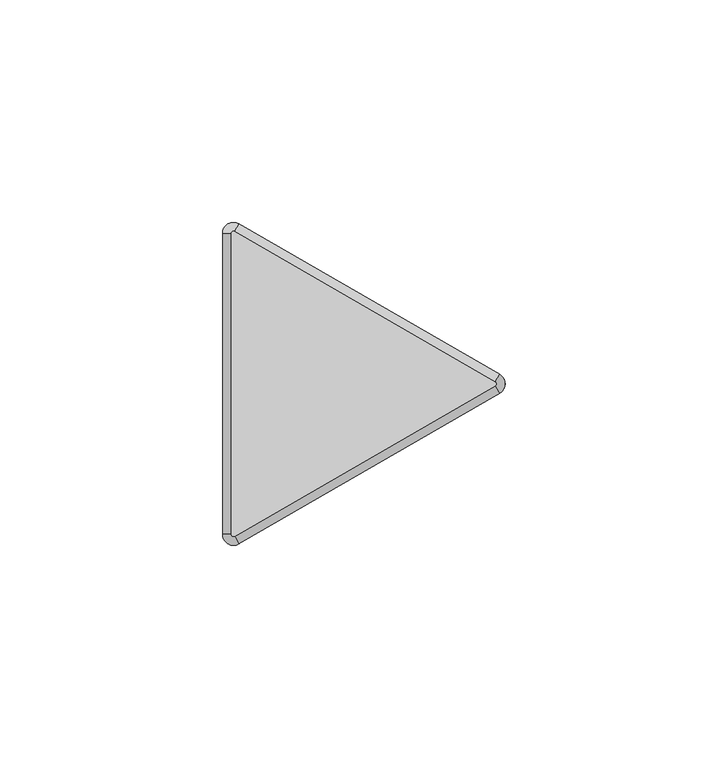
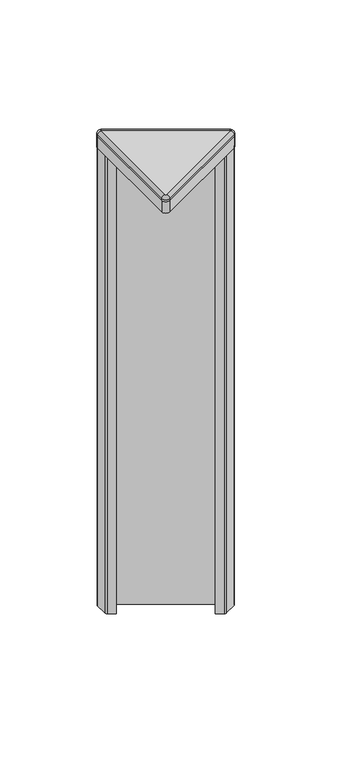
"""IFC4 building model written with IfcOpenShell, lengths in millimetres: furniture geometry, Steelcase - Answer Solution - Panel - 120deg Change-of-Height Trim - Thin : V Corner - 12H for 84H App."""

from ifc_helpers import new_model, si_unit, point, frame, frame_2d, origin, place, context, project, spatial, polyline, circle_curve, ellipse_curve, trimmed, segment, composite_curve, outline, extrude, source, transform, mapped, element, save
from ifc_brep_helpers import plane_surface, cylinder_surface, revolved_surface, advanced_brep


def furniture_b97a619a(model_context):
    return source(origin(), model_context, "Body", "SolidModel", [
        advanced_brep(
        [(-10.518645, -37.3335529, 2138.0628978), (-14.2052101, -35.2051135, 2138.0628978), (-14.2052101, -35.2051135, 2137.1164663), (-10.518645, -37.3335529, 2137.1164663), (-11.46175, -35.7000471, 2139.95), (-12.319, -35.2051135, 2139.95), (-11.46175, -35.7000471, 2137.1164663), (-12.319, -35.2051135, 2137.1164663), (48.0429908, -3.5229767, 2137.1164663), (48.0429908, -3.5229767, 2138.0628978), (47.0998858, -1.8894709, 2139.95), (47.0998858, -1.8894709, 2137.1164663), (48.0429908, 0.733902, 2138.0628978), (48.0429908, 0.733902, 2137.1164663), (47.0998858, -0.8996038, 2139.95), (47.0998858, -0.8996038, 2137.1164663), (-10.518645, 34.5444782, 2137.1164663), (-14.2052101, 32.4160388, 2137.1164663), (-11.46175, 32.9109723, 2137.1164663), (-12.319, 32.4160388, 2137.1164663), (-10.518645, 34.5444782, 2138.0628978), (-11.46175, 32.9109723, 2139.95), (-14.2052101, 32.4160388, 2138.0628978), (-12.319, 32.4160388, 2139.95)],
        [
            (0, 1, circle_curve(frame((-11.7475, -35.2051135, 2138.0628978), z_axis=(0.0, 0.0, -1.0), x_axis=(-1.0, 0.0, 0.0)), 2.4577101)),
            (1, 2),
            (2, 3, circle_curve(frame((-11.7475, -35.2051135, 2137.1164663), z_axis=(0.0, 0.0, 1.0), x_axis=(-1.0, 0.0, 0.0)), 2.4577101)),
            (3, 0),
            (4, 5, circle_curve(frame((-11.7475, -35.2051135, 2139.95), z_axis=(0.0, 0.0, -1.0), x_axis=(-1.0, 0.0, 0.0)), 0.5715)),
            (5, 1, circle_curve(frame((-12.3181076, -35.2051135, 2138.0628978), z_axis=(0.0, -1.0, 0.0), x_axis=(1.0, 0.0, 0.0)), 1.8871024)),
            (0, 4, circle_curve(frame((-11.4621962, -35.6992743, 2138.0628978), z_axis=(-0.8660254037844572, -0.49999999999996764, 0.0), x_axis=(-0.49999999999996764, 0.8660254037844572, 0.0)), 1.8871024)),
            (6, 7, circle_curve(frame((-11.7475, -35.2051135, 2137.1164663), z_axis=(0.0, 0.0, -1.0), x_axis=(-1.0, 0.0, 0.0)), 0.5715)),
            (7, 5),
            (4, 6),
            (3, 8),
            (8, 9),
            (9, 0),
            (9, 10, circle_curve(frame((47.0994396, -1.8886981, 2138.0628978), z_axis=(-0.8660254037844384, -0.5000000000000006, 0.0), x_axis=(-0.5000000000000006, 0.8660254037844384, 0.0)), 1.8871024)),
            (10, 4),
            (10, 11),
            (11, 6),
            (12, 9, circle_curve(frame((46.8141358, -1.3945374, 2138.0628978), z_axis=(0.0, 0.0, -1.0), x_axis=(0.4999999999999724, -0.8660254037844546, 0.0)), 2.4577101)),
            (8, 13, circle_curve(frame((46.8141358, -1.3945374, 2137.1164663), z_axis=(0.0, 0.0, 1.0), x_axis=(0.4999999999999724, -0.8660254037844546, 0.0)), 2.4577101)),
            (13, 12),
            (14, 10, circle_curve(frame((46.8141358, -1.3945374, 2139.95), z_axis=(0.0, 0.0, -1.0), x_axis=(0.4999999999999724, -0.8660254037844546, 0.0)), 0.5715)),
            (12, 14, circle_curve(frame((47.0994396, -0.9003766, 2138.0628978), z_axis=(0.8660254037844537, -0.49999999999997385, 0.0), x_axis=(-0.49999999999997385, -0.8660254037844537, 0.0)), 1.8871024)),
            (15, 11, circle_curve(frame((46.8141358, -1.3945374, 2137.1164663), z_axis=(0.0, 0.0, -1.0), x_axis=(0.4999999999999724, -0.8660254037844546, 0.0)), 0.5715)),
            (14, 15),
            (16, 13),
            (2, 17),
            (17, 16, circle_curve(frame((-11.7475, 32.4160388, 2137.1164663), z_axis=(0.0, 0.0, -1.0), x_axis=(0.500000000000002, 0.8660254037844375, 0.0)), 2.4577101)),
            (15, 18),
            (18, 19, circle_curve(frame((-11.7475, 32.4160388, 2137.1164663), z_axis=(0.0, 0.0, 1.0), x_axis=(0.500000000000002, 0.8660254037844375, 0.0)), 0.5715)),
            (19, 7),
            (16, 20),
            (20, 12),
            (20, 21, circle_curve(frame((-11.4621962, 32.9101995, 2138.0628978), z_axis=(0.8660254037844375, -0.5000000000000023, 0.0), x_axis=(-0.5000000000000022, -0.8660254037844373, 0.0)), 1.8871024)),
            (21, 14),
            (21, 18),
            (22, 20, circle_curve(frame((-11.7475, 32.4160388, 2138.0628978), z_axis=(0.0, 0.0, -1.0), x_axis=(0.500000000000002, 0.8660254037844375, 0.0)), 2.4577101)),
            (17, 22),
            (23, 21, circle_curve(frame((-11.7475, 32.4160388, 2139.95), z_axis=(0.0, 0.0, -1.0), x_axis=(0.500000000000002, 0.8660254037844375, 0.0)), 0.5715)),
            (22, 23, circle_curve(frame((-12.3181076, 32.4160388, 2138.0628978), z_axis=(0.0, 1.0, 0.0), x_axis=(1.0, 0.0, 0.0)), 1.8871024)),
            (23, 19),
            (1, 22),
            (5, 23),
        ],
        [
            cylinder_surface(frame((-11.7475, -35.2051135, 0.0), z_axis=(0.0, 0.0, 1.0), x_axis=(-1.0, 0.0, 0.0)), 2.4577101),
            revolved_surface(trimmed(ellipse_curve(frame((-12.3181076, -35.2051135, 2138.0628978), z_axis=(0.0, 1.0, 0.0), x_axis=(1.0, 0.0, 0.0)), 1.8871024, 1.8871024), [point((-14.2052101, -35.2051135, 2138.0628978))], [point((-12.319, -35.2051135, 2139.95))], True, "CARTESIAN"), (-11.7475, -35.2051135, 0.0), (0.0, 0.0, 1.0)),
            revolved_surface(polyline([(-12.319, -35.2051135, 2139.95), (-12.319, -35.2051135, 2137.1164663)]), (-11.7475, -35.2051135, 0.0), (0.0, 0.0, 1.0)),
            plane_surface(frame((-10.518645, -37.3335529, 2137.1164663), z_axis=(0.49999999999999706, -0.8660254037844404, 0.0), x_axis=(0.8660254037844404, 0.49999999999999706, 0.0))),
            cylinder_surface(frame((-11.4621962, -35.6992743, 2138.0628978), z_axis=(-0.8660254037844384, -0.5000000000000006, 0.0), x_axis=(-0.5000000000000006, 0.8660254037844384, 0.0)), 1.8871024),
            plane_surface(frame((-11.46175, -35.7000471, 2139.95), z_axis=(-0.500000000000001, 0.8660254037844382, 0.0), x_axis=(0.8660254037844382, 0.500000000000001, 0.0))),
            cylinder_surface(frame((46.8141358, -1.3945374, 0.0), z_axis=(0.0, 0.0, 1.0), x_axis=(0.4999999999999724, -0.8660254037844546, 0.0)), 2.4577101),
            revolved_surface(trimmed(ellipse_curve(frame((47.0994396, -1.8886981, 2138.0628978), z_axis=(-0.8660254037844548, -0.499999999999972, 0.0), x_axis=(-0.499999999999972, 0.8660254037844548, 0.0)), 1.8871024, 1.8871024), [point((48.0429908, -3.5229767, 2138.0628978))], [point((47.0998858, -1.8894709, 2139.95))], True, "CARTESIAN"), (46.8141358, -1.3945374, 0.0), (0.0, 0.0, 1.0)),
            revolved_surface(polyline([(47.09988579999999, -1.8894709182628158, 2139.95), (47.09988579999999, -1.8894709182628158, 2137.1164663)]), (46.8141358, -1.3945374, 0.0), (0.0, 0.0, 1.0)),
            plane_surface(frame((47.0998858, -0.8996038, 2137.1164663), z_axis=(0.0, 0.0, -1.0), x_axis=(-0.8660254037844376, 0.5000000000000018, 0.0))),
            plane_surface(frame((48.0429908, 0.733902, 2137.1164663), z_axis=(0.49999999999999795, 0.8660254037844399, 0.0), x_axis=(-0.8660254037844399, 0.49999999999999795, 0.0))),
            cylinder_surface(frame((47.0994396, -0.9003766, 2138.0628978), z_axis=(0.8660254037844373, -0.5000000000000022, 0.0), x_axis=(-0.5000000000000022, -0.8660254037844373, 0.0)), 1.8871024),
            plane_surface(frame((47.0998858, -0.8996038, 2139.95), z_axis=(-0.5000000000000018, -0.8660254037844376, 0.0), x_axis=(-0.8660254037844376, 0.5000000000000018, 0.0))),
            cylinder_surface(frame((-11.7475, 32.4160388, 0.0), z_axis=(0.0, 0.0, 1.0), x_axis=(0.500000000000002, 0.8660254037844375, 0.0)), 2.4577101),
            revolved_surface(trimmed(ellipse_curve(frame((-11.4621962, 32.9101995, 2138.0628978), z_axis=(0.866025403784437, -0.5000000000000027, 0.0), x_axis=(-0.5000000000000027, -0.866025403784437, 0.0)), 1.8871024, 1.8871024), [point((-10.518645, 34.5444782, 2138.0628978))], [point((-11.46175, 32.9109723, 2139.95))], True, "CARTESIAN"), (-11.7475, 32.4160388, 0.0), (0.0, 0.0, 1.0)),
            revolved_surface(polyline([(-11.461749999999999, 32.91097231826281, 2139.95), (-11.461749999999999, 32.91097231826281, 2137.1164663)]), (-11.7475, 32.4160388, 0.0), (0.0, 0.0, 1.0)),
            plane_surface(frame((-14.2052101, 32.4160388, 2137.1164663), z_axis=(-1.0, 0.0, 0.0), x_axis=(0.0, -1.0, 0.0))),
            cylinder_surface(frame((-12.3181076, 32.4160388, 2138.0628978), z_axis=(0.0, 1.0, 0.0), x_axis=(1.0, 0.0, 0.0)), 1.8871024),
            plane_surface(frame((-12.319, 32.4160388, 2139.95), z_axis=(1.0, 0.0, 0.0), x_axis=(0.0, -1.0, 0.0))),
        ],
        [
            (0, [[1, 2, 3, 4]]),
            (1, [[5, 6, -1, 7]]),
            (2, [[8, 9, -5, 10]]),
            (3, [[-4, 11, 12, 13]]),
            (4, [[-7, -13, 14, 15]]),
            (5, [[-10, -15, 16, 17]]),
            (6, [[18, -12, 19, 20]]),
            (7, [[21, -14, -18, 22]]),
            (8, [[23, -16, -21, 24]]),
            (9, [[25, -19, -11, -3, 26, 27], [-8, -17, -23, 28, 29, 30]]),
            (10, [[-20, -25, 31, 32]]),
            (11, [[-22, -32, 33, 34]]),
            (12, [[-24, -34, 35, -28]]),
            (13, [[36, -31, -27, 37]]),
            (14, [[38, -33, -36, 39]]),
            (15, [[-29, -35, -38, 40]]),
            (16, [[-37, -26, -2, 41]]),
            (17, [[-39, -41, -6, 42]]),
            (18, [[-40, -42, -9, -30]]),
        ],
    ),
        extrude(outline(composite_curve([segment(trimmed(circle_curve(frame_2d((46.8261011, -1.3945374)), 0.5655173), [point((47.1088598, -0.904785))], [point((47.1088598, -1.8842897))], False, "CARTESIAN"), True, "CONTINUOUS"), segment(polyline([(47.1088598, -1.8842897), (-11.4505119, -35.6935587)]), True, "CONTINUOUS"), segment(trimmed(circle_curve(frame_2d((-11.7400079, -35.1921369)), 0.5789921), [point((-11.4505119, -35.6935587))], [point((-12.319, -35.1921369))], False, "CARTESIAN"), True, "CONTINUOUS"), segment(polyline([(-12.319, -35.1921369), (-12.319, 32.3985888)]), True, "CONTINUOUS"), segment(trimmed(circle_curve(frame_2d((-11.7374252, 32.3985888)), 0.5815748), [point((-12.319, 32.3985888))], [point((-11.4466378, 32.9022473))], False, "CARTESIAN"), True, "CONTINUOUS"), segment(polyline([(-11.4466378, 32.9022473), (47.1088598, -0.904785)]), True, "CONTINUOUS")], self_intersect=False)), frame((0.0, 0.0, 2137.1164663), z_axis=(0.0, 0.0, 1.0), x_axis=(1.0, 0.0, 0.0)), (0.0, 0.0, 1.0), 2.8335337),
        extrude(outline(composite_curve([segment(trimmed(circle_curve(frame_2d((47.9608454, -1.3945374)), 1.2935425), [point((48.6076166, -0.2742967))], [point((48.6076166, -2.514778))], False, "CARTESIAN"), True, "CONTINUOUS"), segment(polyline([(48.6076166, -2.514778), (41.722656, -6.4898119)]), True, "CONTINUOUS"), segment(trimmed(circle_curve(frame_2d((41.0991304, -5.4098338)), 1.2470513), [point((41.722656, -6.4898119))], [point((40.4756048, -6.4898119))], False, "CARTESIAN"), True, "CONTINUOUS"), segment(polyline([(40.4756048, -6.4898119), (36.3239304, -4.0928416), (36.7811304, -3.300948), (41.0991304, -5.7939464), (47.3502407, -2.1848662)]), True, "CONTINUOUS"), segment(trimmed(circle_curve(frame_2d((46.8939441, -1.3945374)), 0.9125932), [point((47.3502407, -2.1848662))], [point((47.3502407, -0.6042085))], True, "CARTESIAN"), True, "CONTINUOUS"), segment(polyline([(47.3502407, -0.6042085), (-11.3312768, 33.2755814)]), True, "CONTINUOUS"), segment(trimmed(circle_curve(frame_2d((-11.7875179, 32.4853487)), 0.9124821), [point((-11.3312768, 33.2755814))], [point((-12.7, 32.4853487))], True, "CARTESIAN"), True, "CONTINUOUS"), segment(polyline([(-12.7, 32.4853487), (-12.7, 25.266996), (-8.382, 22.7739975), (-8.8392, 21.9821039), (-12.9583282, 24.3602837)]), True, "CONTINUOUS"), segment(trimmed(circle_curve(frame_2d((-12.3022565, 25.4966333)), 1.3121435), [point((-12.9583282, 24.3602837))], [point((-13.6144, 25.4966333))], False, "CARTESIAN"), True, "CONTINUOUS"), segment(polyline([(-13.6144, 25.4966333), (-13.6144, 33.3957138)]), True, "CONTINUOUS"), segment(trimmed(circle_curve(frame_2d((-12.3131174, 33.3957138)), 1.3012826), [point((-13.6144, 33.3957138))], [point((-11.6624761, 34.5226576))], False, "CARTESIAN"), True, "CONTINUOUS"), segment(polyline([(-11.6624761, 34.5226576), (48.6076166, -0.2742967)]), True, "CONTINUOUS")], self_intersect=False)), frame((0.0, 0.0, 1835.15), z_axis=(0.0, 0.0, 1.0), x_axis=(1.0, 0.0, 0.0)), (0.0, 0.0, 1.0), 294.64),
        extrude(outline(composite_curve([segment(trimmed(circle_curve(frame_2d((46.8140443, -1.3945374)), 2.4577558), [point((48.0429222, 0.7339416))], [point((48.0429222, -3.5230163))], False, "CARTESIAN"), True, "CONTINUOUS"), segment(polyline([(48.0429222, -3.5230163), (-10.518058, -37.333214)]), True, "CONTINUOUS"), segment(trimmed(circle_curve(frame_2d((-11.7471087, -35.2044357)), 2.4581014), [point((-10.518058, -37.333214))], [point((-14.2052101, -35.2044357))], False, "CARTESIAN"), True, "CONTINUOUS"), segment(polyline([(-14.2052101, -35.2044357), (-14.2052101, 32.4160388)]), True, "CONTINUOUS"), segment(trimmed(circle_curve(frame_2d((-11.7475, 32.4160388)), 2.4577101), [point((-14.2052101, 32.4160388))], [point((-10.518645, 34.5444782))], False, "CARTESIAN"), True, "CONTINUOUS"), segment(polyline([(-10.518645, 34.5444782), (48.0429222, 0.7339416)]), True, "CONTINUOUS")], self_intersect=False)), frame((0.0, 0.0, 2129.79), z_axis=(0.0, 0.0, 1.0), x_axis=(1.0, 0.0, 0.0)), (0.0, 0.0, 1.0), 7.3264663),
    ])


if __name__ == "__main__":
    model = new_model("IFC4")
    model_context = context("Model", 3, world=origin())
    ifc_project = project(units=[si_unit("LENGTHUNIT", "METRE", prefix="MILLI")], contexts=[model_context])
    site = spatial("IfcSite", under=ifc_project)
    building = spatial("IfcBuilding", under=site)
    placement = place(None, origin())
    furniture_shape = furniture_b97a619a(model_context)
    element("IfcFurniture", 1, ObjectType="Steelcase - Answer Solution - Panel - 120deg Change-of-Height Trim - Thin : V Corner - 12H for 84H App", at=placement, inside=building, context=model_context, shape_type="MappedRepresentation", body=[
        mapped(furniture_shape, transform((0.0, 0.0, 0.0), x_axis=(1.0, 0.0, 0.0), y_axis=(0.0, 1.0, 0.0), z_axis=(0.0, 0.0, 1.0))),
    ])
    save(model, "model.ifc")
